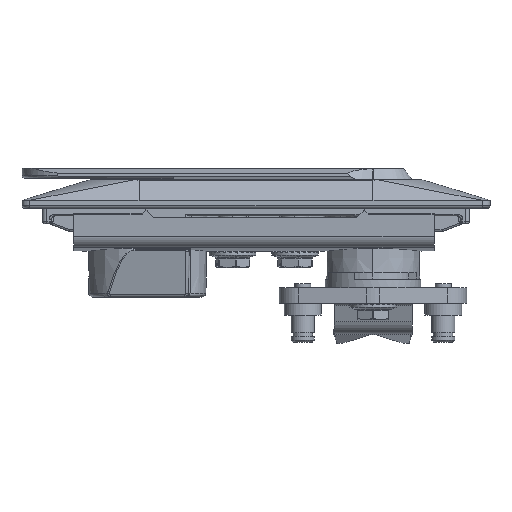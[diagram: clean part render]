
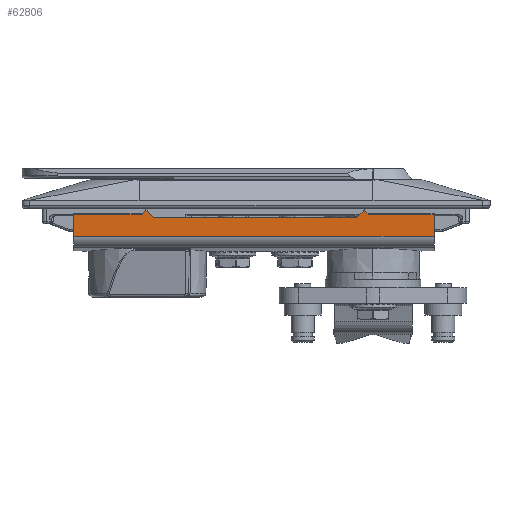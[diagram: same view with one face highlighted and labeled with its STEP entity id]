
A CAD part, left-side view. The second image highlights one B-rep face of the part: STEP entity #62806.
In plain terms, the highlighted planar face has unit normal (-0.999, 0, -0.052) as drawn and (0.999, 0.052, 0) by its records, which use the part's own axes.
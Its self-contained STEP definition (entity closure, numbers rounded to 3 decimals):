
#423 = VERTEX_POINT ( 'NONE', #5302 ) ;
#1737 = ORIENTED_EDGE ( 'NONE', *, *, #11218, .T. ) ;
#3068 = ORIENTED_EDGE ( 'NONE', *, *, #10432, .F. ) ;
#5233 = DIRECTION ( 'NONE',  ( 0., 0., -1. ) ) ;
#5302 = CARTESIAN_POINT ( 'NONE',  ( 16.648, 1., -29. ) ) ;
#6240 = ORIENTED_EDGE ( 'NONE', *, *, #48045, .T. ) ;
#6834 = ORIENTED_EDGE ( 'NONE', *, *, #48778, .T. ) ;
#7728 = EDGE_CURVE ( 'NONE', #100050, #93373, #61710, .T. ) ;
#8017 = CARTESIAN_POINT ( 'NONE',  ( 16.7, 0., 45.87 ) ) ;
#8520 = VERTEX_POINT ( 'NONE', #55240 ) ;
#8589 = DIRECTION ( 'NONE',  ( 0.052, -0.999, 0. ) ) ;
#9491 = ORIENTED_EDGE ( 'NONE', *, *, #73990, .T. ) ;
#9925 = VECTOR ( 'NONE', #90757, 1000. ) ;
#10013 = DIRECTION ( 'NONE',  ( -0.037, 0.707, -0.707 ) ) ;
#10432 = EDGE_CURVE ( 'NONE', #100050, #94736, #24225, .T. ) ;
#10935 = VERTEX_POINT ( 'NONE', #16245 ) ;
#11218 = EDGE_CURVE ( 'NONE', #8520, #68102, #42518, .T. ) ;
#12614 = DIRECTION ( 'NONE',  ( -0.037, 0.707, 0.707 ) ) ;
#13227 = CARTESIAN_POINT ( 'NONE',  ( 16.648, 1., 45.87 ) ) ;
#15468 = CARTESIAN_POINT ( 'NONE',  ( 16.648, 1., 29. ) ) ;
#16245 = CARTESIAN_POINT ( 'NONE',  ( 16.7, 0., -28. ) ) ;
#17815 = DIRECTION ( 'NONE',  ( 0.037, -0.707, -0.707 ) ) ;
#17943 = PLANE ( 'NONE',  #47279 ) ;
#19469 = EDGE_CURVE ( 'NONE', #68102, #10935, #95568, .T. ) ;
#19536 = EDGE_CURVE ( 'NONE', #423, #10935, #87180, .T. ) ;
#21426 = VECTOR ( 'NONE', #8589, 1000. ) ;
#22469 = VECTOR ( 'NONE', #75895, 1000. ) ;
#23472 = VERTEX_POINT ( 'NONE', #15468 ) ;
#24225 = LINE ( 'NONE', #57219, #95065 ) ;
#31383 = CARTESIAN_POINT ( 'NONE',  ( 16.648, 1., 60. ) ) ;
#31487 = ORIENTED_EDGE ( 'NONE', *, *, #35727, .T. ) ;
#33214 = CARTESIAN_POINT ( 'NONE',  ( 16.648, 1., -46.5 ) ) ;
#35059 = LINE ( 'NONE', #41771, #22469 ) ;
#35090 = VECTOR ( 'NONE', #12614, 1000. ) ;
#35270 = DIRECTION ( 'NONE',  ( -0.052, 0.999, 0. ) ) ;
#35727 = EDGE_CURVE ( 'NONE', #67585, #94736, #35059, .T. ) ;
#35759 = VECTOR ( 'NONE', #105074, 1000. ) ;
#37619 = CARTESIAN_POINT ( 'NONE',  ( 16.347, 6.734, -46.5 ) ) ;
#41771 = CARTESIAN_POINT ( 'NONE',  ( 16.7, 0., -46.5 ) ) ;
#42518 = LINE ( 'NONE', #77745, #91306 ) ;
#43503 = CARTESIAN_POINT ( 'NONE',  ( 16.7, 0., 28. ) ) ;
#44275 = EDGE_CURVE ( 'NONE', #102113, #23472, #106635, .T. ) ;
#45730 = CARTESIAN_POINT ( 'NONE',  ( 16.648, 1., -29. ) ) ;
#46907 = ORIENTED_EDGE ( 'NONE', *, *, #7728, .T. ) ;
#47279 = AXIS2_PLACEMENT_3D ( 'NONE', #78361, #77792, #35270 ) ;
#47821 = CARTESIAN_POINT ( 'NONE',  ( 16.7, 0., 28. ) ) ;
#48045 = EDGE_CURVE ( 'NONE', #423, #67585, #102343, .T. ) ;
#48778 = EDGE_CURVE ( 'NONE', #93373, #23472, #73901, .T. ) ;
#51022 = VECTOR ( 'NONE', #10013, 1000. ) ;
#52503 = LINE ( 'NONE', #86662, #51022 ) ;
#54488 = CARTESIAN_POINT ( 'NONE',  ( 16.347, 6.734, 45.87 ) ) ;
#55240 = CARTESIAN_POINT ( 'NONE',  ( 16.595, 2., 26. ) ) ;
#57219 = CARTESIAN_POINT ( 'NONE',  ( 16.347, 6.734, 60. ) ) ;
#59783 = DIRECTION ( 'NONE',  ( 0., 0., -1. ) ) ;
#61449 = CARTESIAN_POINT ( 'NONE',  ( 16.648, 1., 60. ) ) ;
#61710 = LINE ( 'NONE', #8017, #21426 ) ;
#62806 = ADVANCED_FACE ( 'NONE', ( #94607 ), #17943, .T. ) ;
#67585 = VERTEX_POINT ( 'NONE', #33214 ) ;
#68102 = VERTEX_POINT ( 'NONE', #86081 ) ;
#68760 = ORIENTED_EDGE ( 'NONE', *, *, #19536, .F. ) ;
#69691 = EDGE_LOOP ( 'NONE', ( #3068, #46907, #6834, #83032, #9491, #1737, #79616, #68760, #6240, #31487 ) ) ;
#73901 = LINE ( 'NONE', #31383, #9925 ) ;
#73990 = EDGE_CURVE ( 'NONE', #102113, #8520, #52503, .T. ) ;
#75895 = DIRECTION ( 'NONE',  ( -0.052, 0.999, 0. ) ) ;
#76526 = VECTOR ( 'NONE', #59783, 1000. ) ;
#76825 = VECTOR ( 'NONE', #17815, 1000. ) ;
#77745 = CARTESIAN_POINT ( 'NONE',  ( 16.595, 2., 60. ) ) ;
#77792 = DIRECTION ( 'NONE',  ( 0.999, 0.052, 0. ) ) ;
#78361 = CARTESIAN_POINT ( 'NONE',  ( 16.7, 0., 60. ) ) ;
#79616 = ORIENTED_EDGE ( 'NONE', *, *, #19469, .T. ) ;
#83032 = ORIENTED_EDGE ( 'NONE', *, *, #44275, .F. ) ;
#86081 = CARTESIAN_POINT ( 'NONE',  ( 16.595, 2., -26. ) ) ;
#86662 = CARTESIAN_POINT ( 'NONE',  ( 16.7, 0., 28. ) ) ;
#87180 = LINE ( 'NONE', #45730, #35759 ) ;
#90757 = DIRECTION ( 'NONE',  ( 0., 0., -1. ) ) ;
#91306 = VECTOR ( 'NONE', #104029, 1000. ) ;
#93373 = VERTEX_POINT ( 'NONE', #13227 ) ;
#94474 = CARTESIAN_POINT ( 'NONE',  ( 16.595, 2., -26. ) ) ;
#94607 = FACE_OUTER_BOUND ( 'NONE', #69691, .T. ) ;
#94736 = VERTEX_POINT ( 'NONE', #37619 ) ;
#95065 = VECTOR ( 'NONE', #5233, 1000. ) ;
#95568 = LINE ( 'NONE', #94474, #76825 ) ;
#100050 = VERTEX_POINT ( 'NONE', #54488 ) ;
#102113 = VERTEX_POINT ( 'NONE', #43503 ) ;
#102343 = LINE ( 'NONE', #61449, #76526 ) ;
#104029 = DIRECTION ( 'NONE',  ( 0., 0., -1. ) ) ;
#105074 = DIRECTION ( 'NONE',  ( 0.037, -0.707, 0.707 ) ) ;
#106635 = LINE ( 'NONE', #47821, #35090 ) ;
